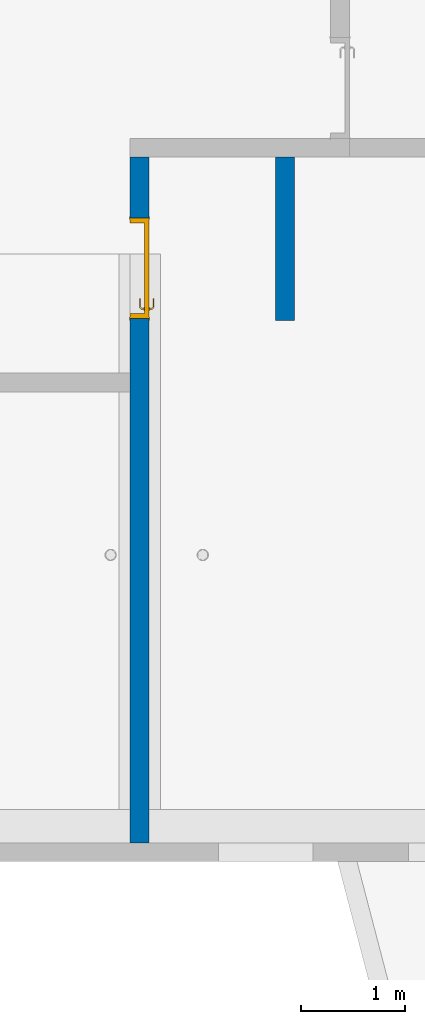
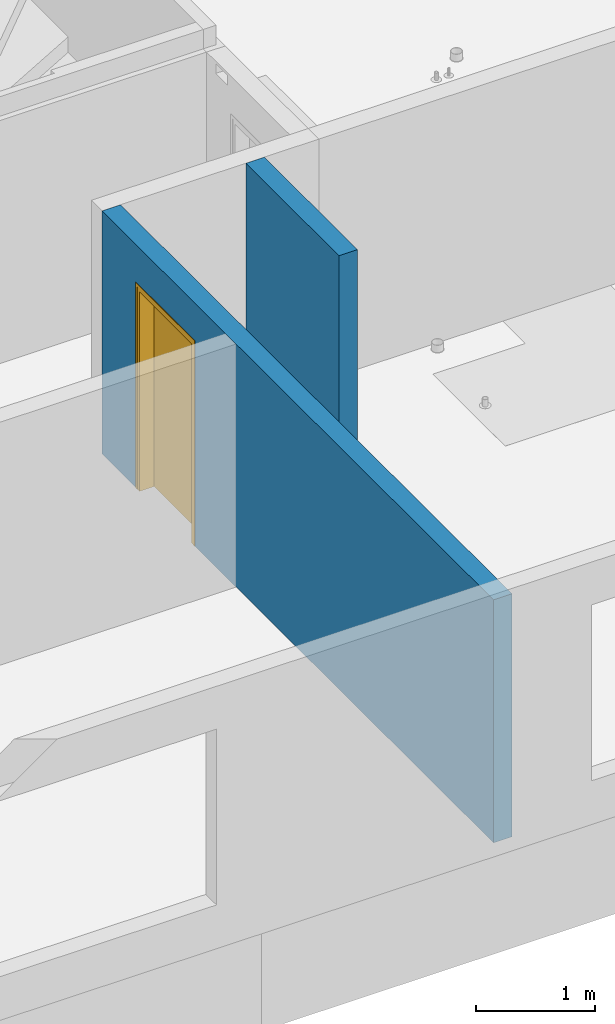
# One storey, part 15 of 34: 2 walls, 1 door, 1 opening.
"""IFC2X3 building model written with IfcOpenShell, lengths in centimetres."""

from ifc_helpers import new_model, entity, si_unit, converted_unit, derived_unit, direction, frame, frame_2d, origin, place, context, subcontext, project, spatial, rectangle, extrude, faceted_brep, source, transform, mapped, material, material_list, layer, layer_set, layer_usage, type_object, type_shapes, element, fill, save


model = new_model("IFC2X3")

# Units and contexts
model_context = context("Model", 3, precision=0.001, world=origin(), true_north=direction((6.12303176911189e-17, 1.0)))
body_context = subcontext(model_context, "Body", "Model", "MODEL_VIEW")
ifc_project = project(units=[si_unit("LENGTHUNIT", "METRE", prefix="CENTI"), si_unit("AREAUNIT", "SQUARE_METRE"), si_unit("VOLUMEUNIT", "CUBIC_METRE"), converted_unit("PLANEANGLEUNIT", "DEGREE", entity("IfcRatioMeasure", 0.0174532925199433), si_unit("PLANEANGLEUNIT", "RADIAN"), dimensions=[0, 0, 0, 0, 0, 0, 0]), si_unit("MASSUNIT", "GRAM", prefix="KILO"), derived_unit("MASSDENSITYUNIT", [(si_unit("MASSUNIT", "GRAM", prefix="KILO"), 1), (si_unit("LENGTHUNIT", "METRE"), -3)]), si_unit("TIMEUNIT", "SECOND"), si_unit("FREQUENCYUNIT", "HERTZ"), si_unit("THERMODYNAMICTEMPERATUREUNIT", "DEGREE_CELSIUS"), derived_unit("THERMALTRANSMITTANCEUNIT", [(si_unit("MASSUNIT", "GRAM", prefix="KILO"), 1), (si_unit("THERMODYNAMICTEMPERATUREUNIT", "KELVIN"), -1), (si_unit("TIMEUNIT", "SECOND"), -3)]), derived_unit("VOLUMETRICFLOWRATEUNIT", [(si_unit("LENGTHUNIT", "METRE"), 3), (si_unit("TIMEUNIT", "SECOND"), -1)]), si_unit("ELECTRICCURRENTUNIT", "AMPERE"), si_unit("ELECTRICVOLTAGEUNIT", "VOLT"), si_unit("POWERUNIT", "WATT"), si_unit("FORCEUNIT", "NEWTON"), si_unit("ILLUMINANCEUNIT", "LUX"), si_unit("LUMINOUSFLUXUNIT", "LUMEN"), si_unit("LUMINOUSINTENSITYUNIT", "CANDELA"), derived_unit("USERDEFINED", [(si_unit("MASSUNIT", "GRAM", prefix="KILO"), -1), (si_unit("LENGTHUNIT", "METRE"), -2), (si_unit("TIMEUNIT", "SECOND"), 3), (si_unit("LUMINOUSFLUXUNIT", "LUMEN"), 1)]), derived_unit("LINEARVELOCITYUNIT", [(si_unit("LENGTHUNIT", "METRE"), 1), (si_unit("TIMEUNIT", "SECOND"), -1)]), si_unit("PRESSUREUNIT", "PASCAL"), derived_unit("USERDEFINED", [(si_unit("LENGTHUNIT", "METRE"), -2), (si_unit("MASSUNIT", "GRAM", prefix="KILO"), 1), (si_unit("TIMEUNIT", "SECOND"), -2)])], contexts=[model_context])

# Site, building, storey
site_placement = place(None, origin())
site = spatial("IfcSite", under=ifc_project, at=site_placement, Name="Default", CompositionType="ELEMENT")
building_placement = place(site_placement, origin())
building = spatial("IfcBuilding", under=site, at=building_placement, Name="CAGE 03", CompositionType="ELEMENT")
storey_placement = place(building_placement, frame((0.0, 0.0, 340.0)))
storey = spatial("IfcBuildingStorey", under=building, at=storey_placement, Name="R+1", CompositionType="ELEMENT", Elevation=340.0)

# Wall, opening, door
ifc_material_1 = material(Name="Béton, C25/30")
ifc_layer = layer(ifc_material_1, 18.0)
ifc_layer_set = layer_set([ifc_layer], Name="Mur de base:Voile BA 18")
ifc_layer_usage_1 = layer_usage(ifc_layer_set, "AXIS2", "POSITIVE", -9.0)
wall_type = type_object("IfcWallType", Name="Mur de base:Voile BA 18", PredefinedType="STANDARD", material=ifc_layer_set)
wall_1_placement = place(storey_placement, frame((10306.3658201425, 4474.66066607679, 0.0), z_axis=(0.0, 0.0, 1.0), x_axis=(0.0, -1.0, 0.0)))
wall_1 = element("IfcWallStandardCase", 1, at=wall_1_placement, inside=storey, type_object=wall_type, material=ifc_layer_usage_1, Name="Mur de base:Voile BA 18", ObjectType="Mur de base:Voile BA 18", context=body_context, shape_type="SweptSolid", body=[
    extrude(rectangle(XDim=660.000000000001, YDim=17.9999999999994, at=frame_2d((330.000000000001, 4.2277292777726e-13), x_axis=(-1.0, 0.0))), origin(), (0.0, 0.0, 1.0), 250.0),
])
opening_placement = place(wall_1_placement, frame((58.5000000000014, -9.0, 0.0)))
opening = element("IfcOpeningElement", 2, at=opening_placement, cuts=wall_1, Name="Int. Simple:HB93:1", ObjectType="Opening", context=body_context, shape_type="SweptSolid", body=[
    extrude(rectangle(XDim=210.000000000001, YDim=96.9999999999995, at=frame_2d((105.000000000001, 48.4999999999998), x_axis=(1.0, 0.0))), frame((0.0, 0.0, 0.0), z_axis=(0.0, 1.0, 0.0), x_axis=(0.0, 0.0, 1.0)), (0.0, 0.0, 1.0), 18.0),
])
ifc_material_2 = material(Name="Finition Peinture - Blanc satiné")
ifc_material_3 = material(Name="Bois - Panneau de porte")
ifc_material_4 = material(Name="Bois - Cadre de porte")
ifc_material_list_1 = material_list([ifc_material_2, ifc_material_3, ifc_material_4])
ifc_material_list_2 = material_list([ifc_material_2, ifc_material_3, ifc_material_4])
door_style = type_object("IfcDoorStyle", Name="HB93", ConstructionType="NOTDEFINED", OperationType="SINGLE_SWING_LEFT", ParameterTakesPrecedence=False, Sizeable=False, material=ifc_material_list_2)
shared_shape = source(origin(), body_context, "Body", "Brep", [
    faceted_brep([(10.5352761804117, -0.500000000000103, 86.6003983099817), (11.5000000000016, -0.500000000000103, 87.0), (11.5000000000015, -0.500000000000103, 108.0), (10.5352761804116, -0.500000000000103, 108.399601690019), (9.50000000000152, -0.500000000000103, 108.535898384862), (8.46472381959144, -0.500000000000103, 108.399601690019), (7.50000000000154, -0.500000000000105, 108.0), (7.50000000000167, -0.500000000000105, 87.0), (8.46472381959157, -0.500000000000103, 86.6003983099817), (9.50000000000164, -0.500000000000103, 86.464101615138), (10.5352761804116, 0.0, 108.399601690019), (11.5000000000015, 0.0, 108.0), (11.5000000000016, 0.0, 87.0), (10.5352761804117, 0.0, 86.6003983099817), (9.50000000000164, 0.0, 86.464101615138), (8.46472381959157, 0.0, 86.6003983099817), (7.50000000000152, 0.0, 87.0), (7.50000000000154, 0.0, 108.0), (8.46472381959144, 0.0, 108.399601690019), (9.50000000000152, 0.0, 108.535898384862)], [[[0, 1, 2, 3, 4, 5, 6, 7, 8, 9]], [[10, 11, 12, 13, 14, 15, 16, 17, 18, 19]], [[16, 15, 8, 7]], [[8, 15, 14, 9]], [[14, 13, 0, 9]], [[13, 12, 1, 0]], [[2, 1, 12, 11]], [[11, 10, 3, 2]], [[3, 10, 19, 4]], [[19, 18, 5, 4]], [[18, 17, 6, 5]], [[7, 6, 17, 16]]]),
    faceted_brep([(10.5352761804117, 4.0, 86.6003983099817), (11.5000000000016, 4.0, 87.0), (11.5000000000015, 4.0, 108.0), (10.5352761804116, 4.0, 108.399601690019), (9.50000000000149, 4.0, 108.535898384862), (8.46472381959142, 4.0, 108.399601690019), (7.50000000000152, 4.0, 108.0), (7.50000000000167, 4.0, 87.0), (8.46472381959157, 4.0, 86.6003983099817), (9.50000000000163, 4.0, 86.464101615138), (10.5352761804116, 4.49999999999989, 108.399601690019), (11.5000000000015, 4.4999999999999, 108.0), (11.5000000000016, 4.4999999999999, 87.0), (10.5352761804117, 4.49999999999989, 86.6003983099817), (9.50000000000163, 4.49999999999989, 86.464101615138), (8.46472381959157, 4.49999999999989, 86.6003983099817), (7.50000000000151, 4.49999999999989, 87.0), (7.50000000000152, 4.49999999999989, 108.0), (8.46472381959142, 4.49999999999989, 108.399601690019), (9.50000000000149, 4.49999999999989, 108.535898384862)], [[[0, 1, 2, 3, 4, 5, 6, 7, 8, 9]], [[10, 11, 12, 13, 14, 15, 16, 17, 18, 19]], [[11, 10, 3, 2]], [[3, 10, 19, 4]], [[19, 18, 5, 4]], [[18, 17, 6, 5]], [[7, 6, 17, 16]], [[16, 15, 8, 7]], [[8, 15, 14, 9]], [[14, 13, 0, 9]], [[13, 12, 1, 0]], [[2, 1, 12, 11]]]),
    faceted_brep([(9.29747013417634, -0.500000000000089, 100.778044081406), (9.70252986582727, -0.500000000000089, 100.778044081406), (10.1000000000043, -0.500000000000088, 100.699999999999), (10.1000000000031, -0.500000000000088, 99.3000000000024), (9.70252986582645, -0.500000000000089, 99.2219559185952), (9.29747013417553, -0.500000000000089, 99.221955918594), (8.89999999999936, -0.500000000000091, 99.2999999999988), (8.89999999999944, -0.500000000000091, 100.7), (8.89999999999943, -3.26509507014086, 100.7), (9.29747013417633, -3.10045754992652, 100.778044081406), (10.9023585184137, -4.70534593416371, 100.778044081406), (11.0701397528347, -4.30028620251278, 100.778044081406), (9.70252986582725, -2.93267631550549, 100.778044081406), (10.1000000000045, -2.76803879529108, 100.7), (10.1000000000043, -2.76803879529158, 99.3000000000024), (9.70252986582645, -2.93267631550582, 99.2219559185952), (11.0701397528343, -4.30028620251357, 99.2219559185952), (10.9023585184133, -4.70534593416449, 99.221955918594), (9.29747013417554, -3.10045754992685, 99.221955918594), (8.89999999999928, -3.26509507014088, 99.2999999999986), (10.7377209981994, -5.1028160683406, 100.7), (11.2347772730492, -3.90281606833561, 100.7), (11.2347772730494, -3.90281606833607, 99.3000000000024), (10.7377209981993, -5.10281606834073, 99.2999999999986), (19.5018640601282, -5.1028160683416, 99.2999999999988), (19.5018640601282, -4.70534593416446, 99.221955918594), (19.5018640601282, -4.30028620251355, 99.2219559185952), (19.5018640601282, -3.90281606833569, 99.3000000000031), (19.5018640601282, -3.90281606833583, 100.7), (19.5018640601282, -4.30028620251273, 100.778044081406), (19.5018640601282, -4.70534593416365, 100.778044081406), (19.5018640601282, -5.10281606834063, 100.699999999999), (14.7307697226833, -5.10281606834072, 100.7), (15.28600190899, -4.5028160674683, 100.78786867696), (15.3683206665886, -3.9028160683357, 100.7), (15.3683206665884, -3.90281606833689, 99.3000000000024), (15.2860018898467, -4.50281607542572, 99.2121313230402), (14.7307700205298, -5.10281606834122, 99.2999999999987)], [[[0, 1, 2, 3, 4, 5, 6, 7]], [[8, 9, 0, 7]], [[9, 10, 11, 12, 1, 0]], [[12, 13, 2, 1]], [[3, 2, 13, 14]], [[14, 15, 4, 3]], [[15, 16, 17, 18, 5, 4]], [[18, 19, 6, 5]], [[7, 6, 19, 8]], [[20, 10, 9, 8]], [[11, 21, 13, 12]], [[14, 13, 21, 22]], [[22, 16, 15, 14]], [[17, 23, 19, 18]], [[8, 19, 23, 20]], [[24, 25, 26, 27, 28, 29, 30, 31]], [[32, 30, 33]], [[31, 30, 32]], [[10, 20, 32]], [[33, 34, 11]], [[21, 11, 34]], [[34, 29, 28]], [[30, 29, 33]], [[29, 34, 33]], [[10, 32, 33]], [[10, 33, 11]], [[22, 21, 34, 28, 27, 35]], [[35, 26, 36]], [[37, 36, 25]], [[22, 35, 16]], [[35, 27, 26]], [[24, 37, 25]], [[23, 17, 37]], [[37, 17, 36]], [[17, 16, 36]], [[16, 35, 36]], [[25, 36, 26]], [[20, 23, 37, 24, 31, 32]]]),
    faceted_brep([(9.29747013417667, 4.49999999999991, 100.778044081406), (8.89999999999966, 4.49999999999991, 100.7), (8.89999999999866, 4.49999999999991, 99.2999999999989), (9.2974701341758, 4.49999999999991, 99.221955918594), (9.70252986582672, 4.49999999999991, 99.2219559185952), (10.1000000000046, 4.49999999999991, 99.3000000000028), (10.1000000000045, 4.49999999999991, 100.7), (9.70252986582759, 4.49999999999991, 100.778044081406), (10.1000000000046, 6.7485204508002, 99.3000000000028), (10.1000000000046, 6.74852045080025, 100.7), (9.70252986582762, 6.91315797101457, 100.778044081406), (11.0838906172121, 8.29451872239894, 100.778044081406), (10.9161093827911, 8.69957845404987, 100.778044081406), (9.29747013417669, 7.0809392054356, 100.778044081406), (8.89999999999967, 7.24557672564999, 100.7), (8.89999999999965, 7.24557672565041, 99.2999999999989), (9.29747013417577, 7.08093920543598, 99.221955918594), (10.9161093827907, 8.69957845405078, 99.221955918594), (11.0838906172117, 8.29451872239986, 99.2219559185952), (9.7025298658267, 6.91315797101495, 99.2219559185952), (11.2485281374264, 7.89704858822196, 99.3000000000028), (11.2485281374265, 7.89704858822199, 100.7), (10.7514718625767, 9.0970485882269, 100.7), (10.751471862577, 9.0970485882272, 99.2999999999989), (19.504578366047, 7.89704858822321, 99.3000000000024), (19.504578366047, 8.29451872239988, 99.2219559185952), (19.504578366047, 8.6995784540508, 99.221955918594), (19.504578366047, 9.09704858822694, 99.2999999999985), (19.504578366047, 9.09704858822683, 100.7), (19.504578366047, 8.69957845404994, 100.778044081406), (19.504578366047, 8.29451872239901, 100.778044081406), (19.504578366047, 7.89704858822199, 100.7), (15.3765520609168, 7.89704858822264, 99.3000000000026), (15.3765532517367, 7.89704858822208, 100.7), (15.294234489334, 8.49704858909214, 100.78786867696), (14.7445205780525, 9.09704858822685, 100.7), (14.7445204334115, 9.09704858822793, 99.2999999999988), (15.2942345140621, 8.49704858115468, 99.2121313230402)], [[[0, 1, 2, 3, 4, 5, 6, 7]], [[6, 5, 8, 9]], [[9, 10, 7, 6]], [[10, 11, 12, 13, 0, 7]], [[13, 14, 1, 0]], [[2, 1, 14, 15]], [[15, 16, 3, 2]], [[16, 17, 18, 19, 4, 3]], [[19, 8, 5, 4]], [[9, 8, 20, 21]], [[21, 11, 10, 9]], [[12, 22, 14, 13]], [[15, 14, 22, 23]], [[23, 17, 16, 15]], [[18, 20, 8, 19]], [[24, 25, 26, 27, 28, 29, 30, 31]], [[21, 20, 32, 24, 31, 33]], [[33, 30, 34]], [[35, 34, 29]], [[21, 33, 11]], [[33, 31, 30]], [[28, 35, 29]], [[22, 12, 35]], [[35, 12, 34]], [[12, 11, 34]], [[11, 33, 34]], [[29, 34, 30]], [[22, 35, 28, 27, 36, 23]], [[36, 26, 37]], [[27, 26, 36]], [[17, 23, 36]], [[37, 32, 18]], [[20, 18, 32]], [[32, 25, 24]], [[26, 25, 37]], [[25, 32, 37]], [[17, 36, 37]], [[17, 37, 18]]]),
    faceted_brep([(3.50000000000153, 4.0, 206.5), (93.5000000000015, 4.0, 206.5), (93.5000000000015, 4.0, 0.0), (3.50000000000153, 4.0, 0.0), (3.50000000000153, 0.0, 206.5), (3.50000000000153, 0.0, 0.0), (93.5000000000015, 0.0, 0.0), (93.5000000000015, 0.0, 206.5)], [[[0, 1, 2, 3]], [[4, 5, 6, 7]], [[1, 0, 4, 7]], [[2, 1, 7, 6]], [[3, 2, 6, 5]], [[0, 3, 5, 4]]]),
    faceted_brep([(0.0, 0.0, 0.0), (0.0, 18.0, 0.0), (5.0, 18.0, 0.0), (5.0, 4.0, 0.0), (3.50000000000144, 4.0, 0.0), (3.50000000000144, 0.0, 0.0), (0.0, 0.0, 210.0), (0.0, 18.0, 210.0), (97.0, 18.0, 210.0), (97.0, 18.0, 0.0), (92.0, 18.0, 0.0), (92.0, 18.0, 205.0), (5.0, 18.0, 205.0), (5.0, 4.0, 205.0), (92.0, 4.0, 205.0), (92.0, 4.0, 0.0), (93.4999999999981, 4.0, 0.0), (93.4999999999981, 4.0, 206.5), (3.50000000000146, 4.0, 206.5), (3.50000000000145, 0.0, 206.5), (93.4999999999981, 0.0, 206.5), (93.4999999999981, 0.0, 0.0), (97.0, 0.0, 0.0), (97.0, 0.0, 210.0)], [[[0, 1, 2, 3, 4, 5]], [[1, 0, 6, 7]], [[2, 1, 7, 8, 9, 10, 11, 12]], [[3, 2, 12, 13]], [[4, 3, 13, 14, 15, 16, 17, 18]], [[5, 4, 18, 19]], [[0, 5, 19, 20, 21, 22, 23, 6]], [[8, 23, 22, 9]], [[22, 21, 16, 15, 10, 9]], [[14, 11, 10, 15]], [[20, 17, 16, 21]], [[7, 6, 23, 8]], [[13, 12, 11, 14]], [[19, 18, 17, 20]]]),
    faceted_brep([(1.5, 18.0, 0.0), (-1.49999999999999, 18.0, 0.0), (-1.49999999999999, 18.5000000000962, 0.0), (1.5, 18.5000000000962, 0.0), (1.5, 18.0, 208.500000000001), (95.4999999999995, 18.0, 208.500000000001), (95.4999999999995, 18.0, 0.0), (98.4999999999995, 18.0, 0.0), (98.4999999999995, 18.0, 211.500000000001), (-1.49999999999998, 18.0, 211.500000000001), (-1.49999999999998, 18.5000000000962, 211.500000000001), (98.4999999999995, 18.5000000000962, 211.500000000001), (98.4999999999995, 18.5000000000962, 0.0), (95.4999999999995, 18.5000000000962, 0.0), (95.4999999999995, 18.5000000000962, 208.500000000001), (1.50000000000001, 18.5000000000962, 208.500000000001)], [[[0, 1, 2, 3]], [[1, 0, 4, 5, 6, 7, 8, 9]], [[2, 1, 9, 10]], [[3, 2, 10, 11, 12, 13, 14, 15]], [[0, 3, 15, 4]], [[6, 13, 12, 7]], [[5, 14, 13, 6]], [[11, 8, 7, 12]], [[10, 9, 8, 11]], [[4, 15, 14, 5]]]),
    faceted_brep([(-1.49999999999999, -0.5, 0.0), (1.5, -0.5, 0.0), (1.5, -0.5, 208.500000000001), (95.4999999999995, -0.5, 208.500000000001), (95.4999999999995, -0.5, 0.0), (98.4999999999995, -0.5, 0.0), (98.4999999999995, -0.5, 211.500000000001), (-1.49999999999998, -0.5, 211.500000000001), (-1.49999999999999, 0.0, 0.0), (-1.49999999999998, 0.0, 211.500000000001), (1.5, 0.0, 0.0), (98.4999999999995, 0.0, 211.500000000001), (98.4999999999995, 0.0, 0.0), (95.4999999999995, 0.0, 0.0), (95.4999999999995, 0.0, 208.500000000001), (1.50000000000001, 0.0, 208.500000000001)], [[[0, 1, 2, 3, 4, 5, 6, 7]], [[8, 0, 7, 9]], [[10, 8, 9, 11, 12, 13, 14, 15]], [[1, 10, 15, 2]], [[3, 14, 13, 4]], [[11, 6, 5, 12]], [[9, 7, 6, 11]], [[2, 15, 14, 3]], [[4, 13, 12, 5]], [[1, 0, 8, 10]]]),
])
type_shapes(door_style, [shared_shape])
door_placement = place(opening_placement, frame((97.0, 18.0, 0.0), z_axis=(0.0, 0.0, 1.0), x_axis=(-1.0, 0.0, 0.0)))
door = element("IfcDoor", 3, at=door_placement, inside=storey, type_object=door_style, material=ifc_material_list_1, Name="Int. Simple:HB93", ObjectType="HB93", OverallHeight=210.000000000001, OverallWidth=96.9999999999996, context=body_context, shape_type="MappedRepresentation", body=[
    mapped(shared_shape, transform((0.0, 0.0, 0.0), scale=1.0)),
])
fill(opening, door)

# Wall
ifc_layer_usage_2 = layer_usage(ifc_layer_set, "AXIS2", "POSITIVE", -9.0)
wall_2_placement = place(storey_placement, frame((10446.3658201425, 4474.66066607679, 0.0), z_axis=(0.0, 0.0, 1.0), x_axis=(0.0, -1.0, 0.0)))
element("IfcWallStandardCase", 4, at=wall_2_placement, inside=storey, type_object=wall_type, material=ifc_layer_usage_2, Name="Mur de base:Voile BA 18", ObjectType="Mur de base:Voile BA 18", context=body_context, shape_type="SweptSolid", body=[
    extrude(rectangle(XDim=157.0, YDim=17.9999999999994, at=frame_2d((78.4999999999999, 1.63424829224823e-13), x_axis=(-1.0, 0.0))), origin(), (0.0, 0.0, 1.0), 250.0),
])

save(model, "model.ifc")
